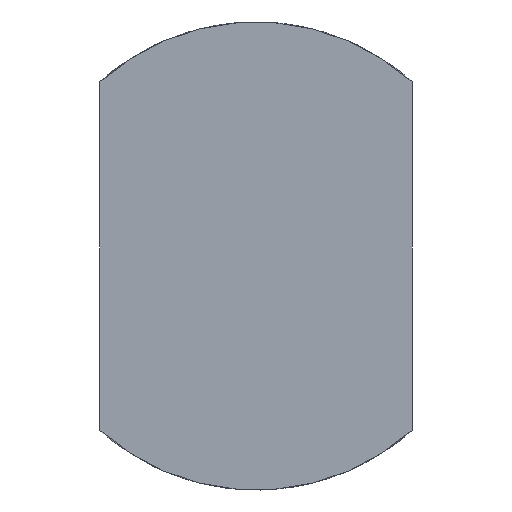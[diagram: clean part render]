
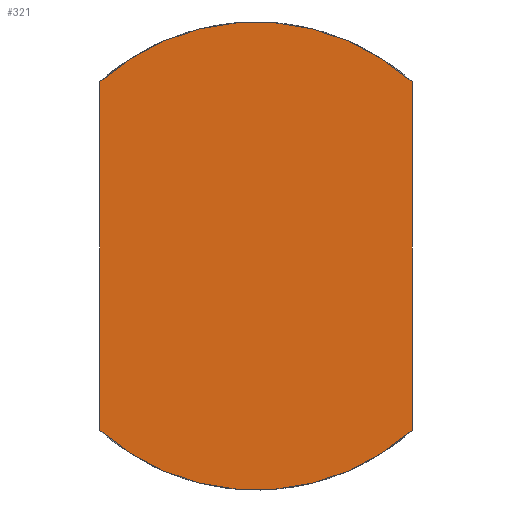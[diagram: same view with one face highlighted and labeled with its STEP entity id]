
A CAD part, front view. The second image highlights one B-rep face of the part: STEP entity #321.
In plain terms, the highlighted planar face has unit normal (0, -1, 0).
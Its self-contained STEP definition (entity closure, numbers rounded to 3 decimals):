
#55 = ORIENTED_EDGE ( 'NONE', *, *, #953, .T. ) ;
#59 = CARTESIAN_POINT ( 'NONE',  ( 0., 0., 0. ) ) ;
#90 = ORIENTED_EDGE ( 'NONE', *, *, #591, .T. ) ;
#165 = DIRECTION ( 'NONE',  ( 0., -1., 0. ) ) ;
#278 = LINE ( 'NONE', #2043, #564 ) ;
#321 = ADVANCED_FACE ( 'NONE', ( #795 ), #1170, .T. ) ;
#326 = LINE ( 'NONE', #517, #1609 ) ;
#441 = DIRECTION ( 'NONE',  ( 0., 0., -1. ) ) ;
#517 = CARTESIAN_POINT ( 'NONE',  ( -20., 0., 22.361 ) ) ;
#564 = VECTOR ( 'NONE', #614, 1000. ) ;
#591 = EDGE_CURVE ( 'NONE', #1558, #2272, #1932, .T. ) ;
#614 = DIRECTION ( 'NONE',  ( 0., 0., 1. ) ) ;
#720 = CIRCLE ( 'NONE', #2188, 30. ) ;
#772 = CARTESIAN_POINT ( 'NONE',  ( 0., 0., 0. ) ) ;
#795 = FACE_OUTER_BOUND ( 'NONE', #1872, .T. ) ;
#953 = EDGE_CURVE ( 'NONE', #1770, #1558, #278, .T. ) ;
#983 = CARTESIAN_POINT ( 'NONE',  ( -20., 0., -22.361 ) ) ;
#1125 = AXIS2_PLACEMENT_3D ( 'NONE', #59, #2233, #1830 ) ;
#1170 = PLANE ( 'NONE',  #1125 ) ;
#1225 = DIRECTION ( 'NONE',  ( 0., 0., -1. ) ) ;
#1416 = DIRECTION ( 'NONE',  ( 0., 0., -1. ) ) ;
#1419 = CARTESIAN_POINT ( 'NONE',  ( 20., 0., 22.361 ) ) ;
#1558 = VERTEX_POINT ( 'NONE', #1419 ) ;
#1609 = VECTOR ( 'NONE', #1225, 1000. ) ;
#1638 = CARTESIAN_POINT ( 'NONE',  ( -20., 0., 22.361 ) ) ;
#1770 = VERTEX_POINT ( 'NONE', #1804 ) ;
#1804 = CARTESIAN_POINT ( 'NONE',  ( 20., 0., -22.361 ) ) ;
#1814 = AXIS2_PLACEMENT_3D ( 'NONE', #772, #1856, #441 ) ;
#1830 = DIRECTION ( 'NONE',  ( 0., 0., -1. ) ) ;
#1832 = ORIENTED_EDGE ( 'NONE', *, *, #1890, .T. ) ;
#1837 = VERTEX_POINT ( 'NONE', #983 ) ;
#1856 = DIRECTION ( 'NONE',  ( 0., -1., 0. ) ) ;
#1872 = EDGE_LOOP ( 'NONE', ( #90, #1832, #2293, #55 ) ) ;
#1890 = EDGE_CURVE ( 'NONE', #2272, #1837, #326, .T. ) ;
#1932 = CIRCLE ( 'NONE', #1814, 30. ) ;
#1945 = CARTESIAN_POINT ( 'NONE',  ( 0., 0., 0. ) ) ;
#1966 = EDGE_CURVE ( 'NONE', #1837, #1770, #720, .T. ) ;
#2043 = CARTESIAN_POINT ( 'NONE',  ( 20., 0., -22.361 ) ) ;
#2188 = AXIS2_PLACEMENT_3D ( 'NONE', #1945, #165, #1416 ) ;
#2233 = DIRECTION ( 'NONE',  ( 0., -1., 0. ) ) ;
#2272 = VERTEX_POINT ( 'NONE', #1638 ) ;
#2293 = ORIENTED_EDGE ( 'NONE', *, *, #1966, .T. ) ;
